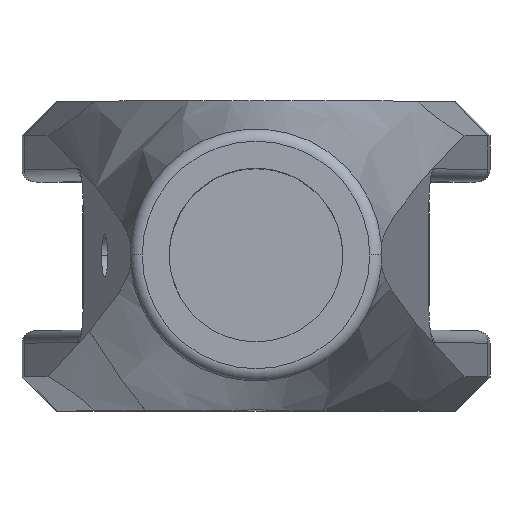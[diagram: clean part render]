
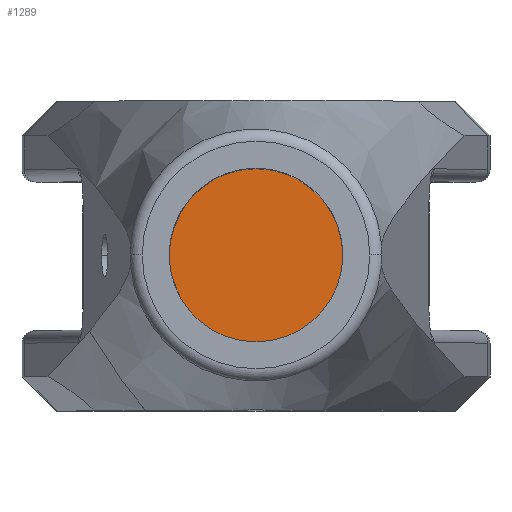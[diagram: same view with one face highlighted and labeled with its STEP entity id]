
A CAD part, top view. The second image highlights one B-rep face of the part: STEP entity #1289.
In plain terms, the highlighted planar face has unit normal (0, 0, 1).
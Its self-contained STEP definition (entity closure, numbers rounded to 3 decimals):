
#36 = DIRECTION ( 'NONE',  ( 1., 0., 0. ) ) ;
#113 = DIRECTION ( 'NONE',  ( 0., 0., 1. ) ) ;
#143 = EDGE_LOOP ( 'NONE', ( #583, #414 ) ) ;
#414 = ORIENTED_EDGE ( 'NONE', *, *, #1882, .T. ) ;
#545 = FACE_OUTER_BOUND ( 'NONE', #143, .T. ) ;
#546 = CARTESIAN_POINT ( 'NONE',  ( 68., 0., -112. ) ) ;
#553 = PLANE ( 'NONE',  #818 ) ;
#583 = ORIENTED_EDGE ( 'NONE', *, *, #627, .T. ) ;
#622 = CIRCLE ( 'NONE', #2024, 28. ) ;
#627 = EDGE_CURVE ( 'NONE', #733, #1432, #1722, .T. ) ;
#704 = CARTESIAN_POINT ( 'NONE',  ( 12., 0., -112. ) ) ;
#733 = VERTEX_POINT ( 'NONE', #546 ) ;
#818 = AXIS2_PLACEMENT_3D ( 'NONE', #821, #967, #1001 ) ;
#821 = CARTESIAN_POINT ( 'NONE',  ( 40., 0., -112. ) ) ;
#967 = DIRECTION ( 'NONE',  ( 0., 0., 1. ) ) ;
#1001 = DIRECTION ( 'NONE',  ( 1., 0., 0. ) ) ;
#1049 = CARTESIAN_POINT ( 'NONE',  ( 40., 0., -112. ) ) ;
#1137 = DIRECTION ( 'NONE',  ( 0., 0., 1. ) ) ;
#1208 = DIRECTION ( 'NONE',  ( 1., 0., 0. ) ) ;
#1246 = CARTESIAN_POINT ( 'NONE',  ( 40., 0., -112. ) ) ;
#1289 = ADVANCED_FACE ( 'NONE', ( #545 ), #553, .T. ) ;
#1432 = VERTEX_POINT ( 'NONE', #704 ) ;
#1722 = CIRCLE ( 'NONE', #1762, 28. ) ;
#1762 = AXIS2_PLACEMENT_3D ( 'NONE', #1246, #1137, #36 ) ;
#1882 = EDGE_CURVE ( 'NONE', #1432, #733, #622, .T. ) ;
#2024 = AXIS2_PLACEMENT_3D ( 'NONE', #1049, #113, #1208 ) ;
